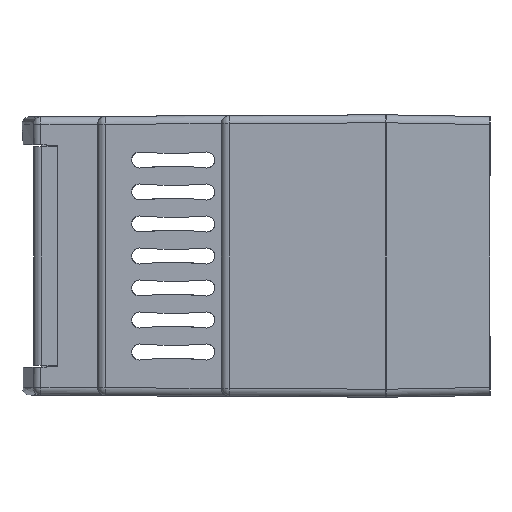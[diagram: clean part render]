
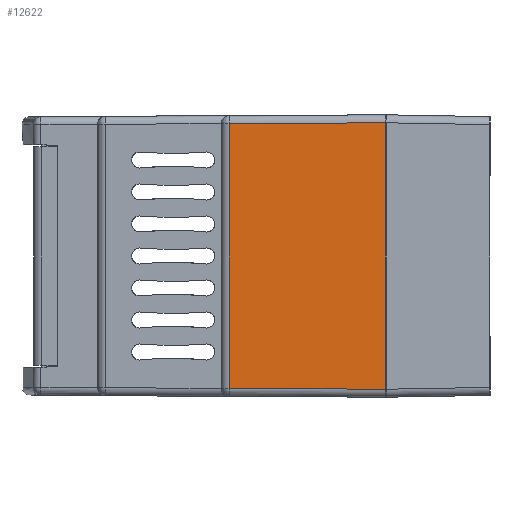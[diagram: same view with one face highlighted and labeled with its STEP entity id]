
A CAD part, left-side view. The second image highlights one B-rep face of the part: STEP entity #12622.
In plain terms, the highlighted planar face has unit normal (-1, 0.018, 0).
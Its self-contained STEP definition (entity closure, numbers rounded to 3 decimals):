
#776 = ORIENTED_EDGE ( 'NONE', *, *, #10893, .T. ) ;
#1224 = CARTESIAN_POINT ( 'NONE',  ( -45.3, -22.755, -16.65 ) ) ;
#3342 = EDGE_CURVE ( 'NONE', #14452, #15922, #8779, .T. ) ;
#3915 = DIRECTION ( 'NONE',  ( 0.017, 1., 0. ) ) ;
#5788 = DIRECTION ( 'NONE',  ( -0.017, -1., -0.005 ) ) ;
#6580 = ORIENTED_EDGE ( 'NONE', *, *, #3342, .T. ) ;
#7434 = VECTOR ( 'NONE', #13455, 1000. ) ;
#7803 = VECTOR ( 'NONE', #11654, 1000. ) ;
#8141 = ORIENTED_EDGE ( 'NONE', *, *, #16196, .T. ) ;
#8779 = LINE ( 'NONE', #1224, #9777 ) ;
#8784 = CARTESIAN_POINT ( 'NONE',  ( -45.3, -22.75, -16.65 ) ) ;
#9192 = DIRECTION ( 'NONE',  ( 0.017, 1., -0.005 ) ) ;
#9362 = VECTOR ( 'NONE', #9192, 1000. ) ;
#9777 = VECTOR ( 'NONE', #5788, 1000. ) ;
#10337 = CARTESIAN_POINT ( 'NONE',  ( -44.958, -3.133, 17.65 ) ) ;
#10555 = EDGE_LOOP ( 'NONE', ( #8141, #6580, #14886, #776 ) ) ;
#10893 = EDGE_CURVE ( 'NONE', #19023, #13903, #15208, .T. ) ;
#10923 = FACE_OUTER_BOUND ( 'NONE', #10555, .T. ) ;
#10953 = CARTESIAN_POINT ( 'NONE',  ( -44.958, -3.133, -16.547 ) ) ;
#11501 = PLANE ( 'NONE',  #19624 ) ;
#11654 = DIRECTION ( 'NONE',  ( 0., 0., -1. ) ) ;
#12622 = ADVANCED_FACE ( 'NONE', ( #10923 ), #11501, .F. ) ;
#13455 = DIRECTION ( 'NONE',  ( 0., 0., -1. ) ) ;
#13464 = EDGE_CURVE ( 'NONE', #19023, #15922, #19371, .T. ) ;
#13798 = CARTESIAN_POINT ( 'NONE',  ( -45.3, -22.755, 16.65 ) ) ;
#13903 = VERTEX_POINT ( 'NONE', #16126 ) ;
#14452 = VERTEX_POINT ( 'NONE', #10953 ) ;
#14886 = ORIENTED_EDGE ( 'NONE', *, *, #13464, .F. ) ;
#14936 = LINE ( 'NONE', #10337, #7803 ) ;
#15208 = LINE ( 'NONE', #13798, #9362 ) ;
#15922 = VERTEX_POINT ( 'NONE', #8784 ) ;
#16126 = CARTESIAN_POINT ( 'NONE',  ( -44.958, -3.133, 16.547 ) ) ;
#16196 = EDGE_CURVE ( 'NONE', #13903, #14452, #14936, .T. ) ;
#16773 = CARTESIAN_POINT ( 'NONE',  ( -45.3, -22.75, 16.65 ) ) ;
#17588 = CARTESIAN_POINT ( 'NONE',  ( -45.3, -22.75, 17.65 ) ) ;
#19023 = VERTEX_POINT ( 'NONE', #16773 ) ;
#19207 = DIRECTION ( 'NONE',  ( 1., -0.017, 0. ) ) ;
#19371 = LINE ( 'NONE', #19567, #7434 ) ;
#19567 = CARTESIAN_POINT ( 'NONE',  ( -45.3, -22.75, 17.65 ) ) ;
#19624 = AXIS2_PLACEMENT_3D ( 'NONE', #17588, #19207, #3915 ) ;
